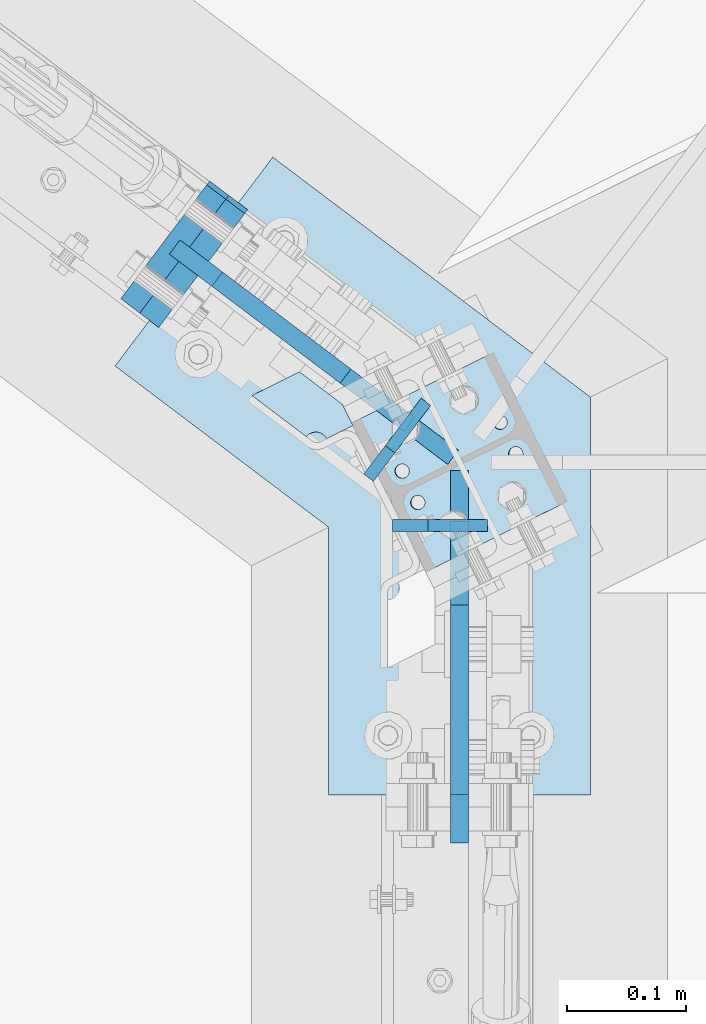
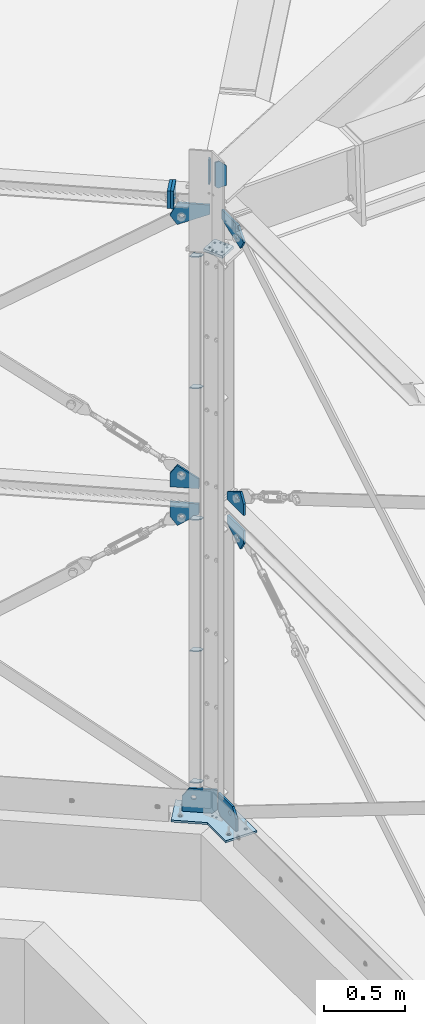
# One storey, part 48 of 476: 19 plates, 43 openings.
"""IFC2X3 building model written with IfcOpenShell, lengths in millimetres."""

from ifc_helpers import new_model, entity, si_unit, converted_unit, point, frame, frame_2d, origin, origin_with_axes, origin_2d_with_axis, place, context, project, spatial, polyline, circle_curve, line_curve, trimmed, segment, composite_curve, circle, outline, extrude, material, layer, layer_set, element, save


model = new_model("IFC2X3")

# Units and contexts
model_context = context("Model", 3, precision=1e-09, world=origin_with_axes())
ifc_project = project(units=[si_unit("LENGTHUNIT", "METRE", prefix="MILLI"), si_unit("AREAUNIT", "SQUARE_METRE"), si_unit("VOLUMEUNIT", "CUBIC_METRE"), converted_unit("PLANEANGLEUNIT", "DEGREE", entity("IfcPlaneAngleMeasure", 0.01745329), si_unit("PLANEANGLEUNIT", "RADIAN"), dimensions=[0, 0, 0, 0, 0, 0, 0])], contexts=[model_context])

# Site, building, storey
site_placement = place(None, origin_with_axes())
site = spatial("IfcSite", under=ifc_project, at=site_placement, Name="mKR Teilneubau & Sanierung BA1 - Ostfildern", CompositionType="ELEMENT")
building_placement = place(site_placement, origin_with_axes())
building = spatial("IfcBuilding", under=site, at=building_placement, Name="Struktur 1", CompositionType="ELEMENT")
storey_placement = place(building_placement, origin_with_axes())
storey = spatial("IfcBuildingStorey", under=building, at=storey_placement, Name="Default Storey", CompositionType="ELEMENT", Elevation=0.0)

# Plate, opening
ifc_material = material(Name="S235JR")
ifc_layer_1 = layer(ifc_material, 15.0)
ifc_layer_set_1 = layer_set([ifc_layer_1], Name="S235JR")
plate_1_placement = place(None, frame((8158.108780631, -6048.676355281, 2969.000017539), z_axis=(-1.0, 0.0, 0.0), x_axis=(0.0, -1.0, 0.0)))
plate_1 = element("IfcPlate", 1, at=plate_1_placement, inside=storey, material=ifc_layer_set_1, Name="-", ObjectType="-", context=model_context, shape_type="SweptSolid", body=[
    extrude(outline(polyline([(20.0, 0.0), (220.0, 0.0), (220.0, 84.822897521), (179.439368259, 153.778210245), (20.0, 59.993391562), (20.0, 0.0)])), origin_with_axes(), (0.0, 0.0, -1.0), 15.0),
])
opening_1_placement = place(plate_1_placement, frame((164.004199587, 88.880080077, -15.5), z_axis=(0.0, 0.0, -1.0), x_axis=(-1.0, 0.0, 0.0)))
element("IfcOpeningElement", 2, at=opening_1_placement, cuts=plate_1, ObjectType="Opening", context=model_context, shape_type="SweptSolid", body=[
    extrude(circle(Radius=16.001, at=frame_2d((16.001, 0.0), x_axis=(1.0, 0.0))), origin(), (0.0, 0.0, -1.0), 16.0),
])

plate_2_placement = place(None, frame((8173.108780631, -6048.676355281, 2855.000017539), z_axis=(1.0, 0.0, 0.0), x_axis=(0.0, -1.0, 0.0)))
plate_2 = element("IfcPlate", 3, at=plate_2_placement, inside=storey, material=ifc_layer_set_1, Name="-", ObjectType="-", context=model_context, shape_type="SweptSolid", body=[
    extrude(outline(polyline([(20.0, 0.0), (220.0, 0.0), (220.0, 94.372336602), (177.838923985, 162.360892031), (20.0, 64.481788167), (20.0, 0.0)])), origin_with_axes(), (0.0, 0.0, -1.0), 15.0),
])
opening_2_placement = place(plate_2_placement, frame((163.929045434, 96.745807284, 0.5), z_axis=(0.0, 0.0, 1.0), x_axis=(1.0, 0.0, 0.0)))
element("IfcOpeningElement", 4, at=opening_2_placement, cuts=plate_2, ObjectType="Opening", context=model_context, shape_type="SweptSolid", body=[
    extrude(circle(Radius=16.001, at=frame_2d((-16.001, 0.0), x_axis=(1.0, 0.0))), origin(), (0.0, 0.0, -1.0), 16.0),
])

plate_3_placement = place(None, frame((8173.108780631, -6048.676355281, 5100.220330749), z_axis=(1.0, 0.0, 0.0), x_axis=(0.0, -1.0, 0.0)))
plate_3 = element("IfcPlate", 5, at=plate_3_placement, inside=storey, material=ifc_layer_set_1, Name="-", ObjectType="-", context=model_context, shape_type="SweptSolid", body=[
    extrude(outline(polyline([(-50.010329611, 0.0), (149.989670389, 0.0), (220.0, 84.822897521), (179.439368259, 153.778210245), (-50.010329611, 70.0), (-50.010329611, 0.0)])), origin_with_axes(), (0.0, 0.0, -1.0), 15.0),
])
opening_3_placement = place(plate_3_placement, frame((164.004506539, 88.879487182, 0.5), z_axis=(0.0, 0.0, 1.0), x_axis=(1.0, 0.0, 0.0)))
element("IfcOpeningElement", 6, at=opening_3_placement, cuts=plate_3, ObjectType="Opening", context=model_context, shape_type="SweptSolid", body=[
    extrude(circle(Radius=16.001, at=frame_2d((-16.001, 0.0), x_axis=(1.0, 0.0))), origin(), (0.0, 0.0, -1.0), 16.0),
])

# Plate, openings
plate_4_placement = place(None, frame((8173.108764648, -5953.675355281, 543.087909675), z_axis=(-1.0, 0.0, 0.0), x_axis=(0.0, -1.0, 0.0)))
plate_4 = element("IfcPlate", 7, at=plate_4_placement, inside=storey, material=ifc_layer_set_1, Name="-", ObjectType="-", context=model_context, shape_type="SweptSolid", body=[
    extrude(outline(polyline([(1.80657514, 1.912090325), (220.0, 1.912090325), (220.0, 94.372336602), (177.838923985, 162.360892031), (1.80657514, 162.360892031), (1.80657514, 1.912090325)])), origin_with_axes(), (0.0, 0.0, 1.0), 15.0),
])
opening_4_placement = place(plate_4_placement, frame((0.0, 0.0, -0.01), z_axis=(0.0, 0.0, 1.0), x_axis=(1.0, 0.0, 0.0)))
element("IfcOpeningElement", 8, at=opening_4_placement, cuts=plate_4, ObjectType="Opening", context=model_context, shape_type="SweptSolid", body=[
    extrude(outline(polyline([(1.80657514, 1.912090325), (31.80657514, 1.912090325), (1.80657514, 31.912090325), (1.80657514, 1.912090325)])), origin(), (0.0, 0.0, 1.0), 15.02),
])
opening_5_placement = place(plate_4_placement, frame((147.928045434, 96.745807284, -0.5), z_axis=(0.0, 0.0, 1.0), x_axis=(-1.0, 0.0, 0.0)))
element("IfcOpeningElement", 9, at=opening_5_placement, cuts=plate_4, ObjectType="Opening", context=model_context, shape_type="SweptSolid", body=[
    extrude(circle(Radius=16.001, at=origin_2d_with_axis()), origin(), (0.0, 0.0, 1.0), 16.0),
])

# Plate, opening
plate_5_placement = place(None, frame((8081.292721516, -5894.385188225, 3027.763476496), z_axis=(-0.602734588, -0.797941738, 0.0), x_axis=(-0.661365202, 0.499569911, 0.559487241)))
plate_5 = element("IfcPlate", 10, at=plate_5_placement, inside=storey, material=ifc_layer_set_1, Name="-", ObjectType="-", context=model_context, shape_type="SweptSolid", body=[
    extrude(outline(polyline([(24.130136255, 0.0), (187.299380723, 0.0), (187.299374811, 79.999999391), (132.890377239, 160.602907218), (-16.300647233, 59.895242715), (24.130136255, 0.0)])), origin_with_axes(), (0.0, 0.0, -1.0), 15.0),
])
opening_6_placement = place(plate_5_placement, frame((127.299378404, 40.343981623, -15.5), z_axis=(0.0, 0.0, 1.0), x_axis=(-0.828838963, -0.559487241, 0.0)))
element("IfcOpeningElement", 11, at=opening_6_placement, cuts=plate_5, ObjectType="Opening", context=model_context, shape_type="SweptSolid", body=[
    extrude(circle(Radius=16.001, at=origin_2d_with_axis()), origin(), (0.0, 0.0, 1.0), 16.0),
])

plate_6_placement = place(None, frame((8090.33373897, -5882.416061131, 2791.74088323), z_axis=(0.602734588, 0.797941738, 0.0), x_axis=(-0.650125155, 0.49107961, -0.579808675)))
plate_6 = element("IfcPlate", 12, at=plate_6_placement, inside=storey, material=ifc_layer_set_1, Name="-", ObjectType="-", context=model_context, shape_type="SweptSolid", body=[
    extrude(outline(polyline([(24.547323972, 0.0), (188.542254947, 0.0), (188.542253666, 80.0), (126.27234637, 167.502267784), (-20.383144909, 63.136744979), (24.547323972, 0.0)])), origin_with_axes(), (0.0, 0.0, -1.0), 15.0),
])
opening_7_placement = place(plate_6_placement, frame((128.542254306, 39.999016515, 0.5), z_axis=(0.0, 0.0, -1.0), x_axis=(-0.814752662, -0.579808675, 0.0)))
element("IfcOpeningElement", 13, at=opening_7_placement, cuts=plate_6, ObjectType="Opening", context=model_context, shape_type="SweptSolid", body=[
    extrude(circle(Radius=16.001, at=origin_2d_with_axis()), origin(), (0.0, 0.0, 1.0), 16.0),
])

# Plate, openings
plate_7_placement = place(None, frame((8158.893743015, -5953.001222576, 545.0), z_axis=(-0.602734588, -0.797941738, 0.0), x_axis=(0.0, 0.0, 1.0)))
plate_7 = element("IfcPlate", 14, at=plate_7_placement, inside=storey, material=ifc_layer_set_1, Name="-", ObjectType="-", context=model_context, shape_type="SweptSolid", body=[
    extrude(outline(polyline([(2.5e-07, 4.053272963), (176.204062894, 4.053272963), (176.204056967, 175.865324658), (111.023841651, 222.250015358), (1.3734e-05, 222.250012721), (2.5e-07, 4.053272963)])), origin_with_axes(), (0.0, 0.0, -1.0), 15.0),
])
opening_8_placement = place(plate_7_placement, frame((2.5e-07, 4.053272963, 0.01), z_axis=(0.0, 0.0, 1.0), x_axis=(1.0, 0.0, 0.0)))
element("IfcOpeningElement", 15, at=opening_8_placement, cuts=plate_7, ObjectType="Opening", context=model_context, shape_type="SweptSolid", body=[
    extrude(outline(polyline([(0.0, 0.0), (30.0, 0.0), (1.854e-06, 30.0), (0.0, 0.0)])), origin(), (0.0, 0.0, -1.0), 15.02),
])
opening_9_placement = place(plate_7_placement, frame((108.826247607, 150.171927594, -15.5), z_axis=(0.0, 0.0, 1.0), x_axis=(0.0, -1.0, 0.0)))
element("IfcOpeningElement", 16, at=opening_9_placement, cuts=plate_7, ObjectType="Opening", context=model_context, shape_type="SweptSolid", body=[
    extrude(circle(Radius=16.001, at=origin_2d_with_axis()), origin(), (0.0, 0.0, 1.0), 16.0),
])

# Plate, opening
plate_8_placement = place(None, frame((8155.764957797, -5931.840294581, 5100.221211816), z_axis=(0.602734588, 0.797941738, 0.0), x_axis=(0.0, 0.0, -1.0)))
plate_8 = element("IfcPlate", 17, at=plate_8_placement, inside=storey, material=ifc_layer_set_1, Name="-", ObjectType="-", context=model_context, shape_type="SweptSolid", body=[
    extrude(outline(polyline([(-2.743e-06, 34.611721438), (70.000878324, 34.61172171), (163.555071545, 237.241031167), (97.247948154, 281.999999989), (-1.8594e-05, 234.611718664), (-2.743e-06, 34.611721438)])), origin_with_axes(), (0.0, 0.0, -1.0), 15.0),
])
opening_10_placement = place(plate_8_placement, frame((96.832279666, 209.890175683, 0.5), z_axis=(0.0, 0.0, -1.0), x_axis=(0.0, -1.0, 0.0)))
element("IfcOpeningElement", 18, at=opening_10_placement, cuts=plate_8, ObjectType="Opening", context=model_context, shape_type="SweptSolid", body=[
    extrude(circle(Radius=16.001, at=origin_2d_with_axis()), origin(), (0.0, 0.0, 1.0), 16.0),
])

ifc_layer_2 = layer(ifc_material, 8.0)
ifc_layer_set_2 = layer_set([ifc_layer_2], Name="S235JR")
plate_9_placement = place(None, frame((7991.012792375, -5892.611556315, 805.123108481), z_axis=(-1.18e-07, 0.0, -1.0), x_axis=(0.895163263, 0.445738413, -1.32e-07)))
plate_9 = element("IfcPlate", 19, at=plate_9_placement, inside=storey, material=ifc_layer_set_2, Name="-", ObjectType="-", context=model_context, shape_type="SweptSolid", body=[
    extrude(outline(polyline([(0.0, 0.0), (44.681799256, 0.0), (64.80213993, 40.419774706), (64.80213993, 60.511176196), (30.121530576, 60.511176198), (0.0, 0.0)])), origin_with_axes(), (0.0, 0.0, 1.0), 8.0),
])
opening_11_placement = place(plate_9_placement, frame((0.0, 0.0, -0.01), z_axis=(0.0, 0.0, 1.0), x_axis=(1.0, 0.0, 0.0)))
element("IfcOpeningElement", 20, at=opening_11_placement, cuts=plate_9, ObjectType="Opening", context=model_context, shape_type="SweptSolid", body=[
    extrude(outline(composite_curve([segment(trimmed(line_curve((30.121530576, 60.511176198), (-0.445626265, -0.895219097), 10.0), [point((30.121530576, 60.511176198))], [point((25.66526793, 51.558985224))], True, "CARTESIAN"), True, "CONTINUOUS"), segment(trimmed(circle_curve(frame_2d((30.121530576, 60.511176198), x_axis=(1.0, 0.0)), 10.0), [point((25.66526793, 51.558985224))], [point((40.121530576, 60.511176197))], True, "CARTESIAN"), True, "CONTINUOUS"), segment(trimmed(line_curve((40.121530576, 60.511176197), (-1.0, 0.0), 10.0), [point((40.121530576, 60.511176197))], [point((30.121530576, 60.511176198))], True, "CARTESIAN"), True, "CONTINUOUS")], self_intersect=False)), origin(), (0.0, 0.0, 1.0), 8.02),
])

plate_10_placement = place(None, frame((7991.013257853, -5892.611324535, 4745.123108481), z_axis=(-1.18e-07, 0.0, -1.0), x_axis=(0.895163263, 0.445738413, -1.32e-07)))
plate_10 = element("IfcPlate", 21, at=plate_10_placement, inside=storey, material=ifc_layer_set_2, Name="-", ObjectType="-", context=model_context, shape_type="SweptSolid", body=[
    extrude(outline(polyline([(0.0, 0.0), (44.681799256, 0.0), (64.80213993, 40.419774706), (64.80213993, 60.511176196), (30.121530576, 60.511176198), (0.0, 0.0)])), origin_with_axes(), (0.0, 0.0, 1.0), 8.0),
])
opening_12_placement = place(plate_10_placement, frame((0.0, 0.0, -0.01), z_axis=(0.0, 0.0, 1.0), x_axis=(1.0, 0.0, 0.0)))
element("IfcOpeningElement", 22, at=opening_12_placement, cuts=plate_10, ObjectType="Opening", context=model_context, shape_type="SweptSolid", body=[
    extrude(outline(composite_curve([segment(trimmed(line_curve((30.121530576, 60.511176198), (-0.445626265, -0.895219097), 10.0), [point((30.121530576, 60.511176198))], [point((25.66526793, 51.558985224))], True, "CARTESIAN"), True, "CONTINUOUS"), segment(trimmed(circle_curve(frame_2d((30.121530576, 60.511176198), x_axis=(1.0, 0.0)), 10.0), [point((25.66526793, 51.558985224))], [point((40.121530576, 60.511176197))], True, "CARTESIAN"), True, "CONTINUOUS"), segment(trimmed(line_curve((40.121530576, 60.511176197), (-1.0, 0.0), 10.0), [point((40.121530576, 60.511176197))], [point((30.121530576, 60.511176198))], True, "CARTESIAN"), True, "CONTINUOUS")], self_intersect=False)), origin(), (0.0, 0.0, 1.0), 8.02),
])

plate_11_placement = place(None, frame((7991.013141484, -5892.61138248, 3760.123108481), z_axis=(-1.18e-07, 0.0, -1.0), x_axis=(0.895163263, 0.445738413, -1.32e-07)))
plate_11 = element("IfcPlate", 23, at=plate_11_placement, inside=storey, material=ifc_layer_set_2, Name="-", ObjectType="-", context=model_context, shape_type="SweptSolid", body=[
    extrude(outline(polyline([(0.0, 0.0), (44.681799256, 0.0), (64.80213993, 40.419774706), (64.80213993, 60.511176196), (30.121530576, 60.511176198), (0.0, 0.0)])), origin_with_axes(), (0.0, 0.0, 1.0), 8.0),
])
opening_13_placement = place(plate_11_placement, frame((0.0, 0.0, -0.01), z_axis=(0.0, 0.0, 1.0), x_axis=(1.0, 0.0, 0.0)))
element("IfcOpeningElement", 24, at=opening_13_placement, cuts=plate_11, ObjectType="Opening", context=model_context, shape_type="SweptSolid", body=[
    extrude(outline(composite_curve([segment(trimmed(line_curve((30.121530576, 60.511176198), (-0.445626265, -0.895219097), 10.0), [point((30.121530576, 60.511176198))], [point((25.66526793, 51.558985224))], True, "CARTESIAN"), True, "CONTINUOUS"), segment(trimmed(circle_curve(frame_2d((30.121530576, 60.511176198), x_axis=(1.0, 0.0)), 10.0), [point((25.66526793, 51.558985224))], [point((40.121530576, 60.511176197))], True, "CARTESIAN"), True, "CONTINUOUS"), segment(trimmed(line_curve((40.121530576, 60.511176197), (-1.0, 0.0), 10.0), [point((40.121530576, 60.511176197))], [point((30.121530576, 60.511176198))], True, "CARTESIAN"), True, "CONTINUOUS")], self_intersect=False)), origin(), (0.0, 0.0, 1.0), 8.02),
])

plate_12_placement = place(None, frame((7991.012908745, -5892.61149837, 1790.123108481), z_axis=(-1.18e-07, 0.0, -1.0), x_axis=(0.895163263, 0.445738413, -1.32e-07)))
plate_12 = element("IfcPlate", 25, at=plate_12_placement, inside=storey, material=ifc_layer_set_2, Name="-", ObjectType="-", context=model_context, shape_type="SweptSolid", body=[
    extrude(outline(polyline([(0.0, 0.0), (44.681799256, 0.0), (64.80213993, 40.419774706), (64.80213993, 60.511176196), (30.121530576, 60.511176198), (0.0, 0.0)])), origin_with_axes(), (0.0, 0.0, 1.0), 8.0),
])
opening_14_placement = place(plate_12_placement, frame((0.0, 0.0, -0.01), z_axis=(0.0, 0.0, 1.0), x_axis=(1.0, 0.0, 0.0)))
element("IfcOpeningElement", 26, at=opening_14_placement, cuts=plate_12, ObjectType="Opening", context=model_context, shape_type="SweptSolid", body=[
    extrude(outline(composite_curve([segment(trimmed(line_curve((30.121530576, 60.511176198), (-0.445626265, -0.895219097), 10.0), [point((30.121530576, 60.511176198))], [point((25.66526793, 51.558985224))], True, "CARTESIAN"), True, "CONTINUOUS"), segment(trimmed(circle_curve(frame_2d((30.121530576, 60.511176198), x_axis=(1.0, 0.0)), 10.0), [point((25.66526793, 51.558985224))], [point((40.121530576, 60.511176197))], True, "CARTESIAN"), True, "CONTINUOUS"), segment(trimmed(line_curve((40.121530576, 60.511176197), (-1.0, 0.0), 10.0), [point((40.121530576, 60.511176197))], [point((30.121530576, 60.511176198))], True, "CARTESIAN"), True, "CONTINUOUS")], self_intersect=False)), origin(), (0.0, 0.0, 1.0), 8.02),
])

# Plate, openings
ifc_layer_3 = layer(ifc_material, 10.0)
ifc_layer_set_3 = layer_set([ifc_layer_3], Name="S235JR")
plate_13_placement = place(None, frame((8189.108764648, -5996.780388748, 5472.548796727), z_axis=(0.0, -1.0, 0.0), x_axis=(-1.0, 0.0, 0.0)))
plate_13 = element("IfcPlate", 27, at=plate_13_placement, inside=storey, material=ifc_layer_set_3, Name="-", ObjectType="-", context=model_context, shape_type="SweptSolid", body=[
    extrude(outline(polyline([(0.0, 0.0), (80.0, 0.0), (80.0, 200.0), (0.0, 197.595559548), (0.0, 0.0)])), origin_with_axes(), (0.0, 0.0, 1.0), 10.0),
])
opening_15_placement = place(plate_13_placement, frame((0.0, 0.0, -0.01), z_axis=(0.0, 0.0, 1.0), x_axis=(1.0, 0.0, 0.0)))
element("IfcOpeningElement", 28, at=opening_15_placement, cuts=plate_13, ObjectType="Opening", context=model_context, shape_type="SweptSolid", body=[
    extrude(outline(polyline([(0.0, 0.0), (50.0, 0.0), (0.0, 50.0), (0.0, 0.0)])), origin(), (0.0, 0.0, 1.0), 10.02),
])
opening_16_placement = place(plate_13_placement, frame((0.0, 0.0, -0.01), z_axis=(0.0, 0.0, 1.0), x_axis=(1.0, 0.0, 0.0)))
element("IfcOpeningElement", 29, at=opening_16_placement, cuts=plate_13, ObjectType="Opening", context=model_context, shape_type="SweptSolid", body=[
    extrude(outline(polyline([(80.0, 200.0), (60.009027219, 199.399161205), (80.0, 180.0), (80.0, 200.0)])), origin(), (0.0, 0.0, 1.0), 10.02),
])

plate_14_placement = place(None, frame((8141.379521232, -5900.927161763, 5472.548796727), z_axis=(0.798017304, -0.602634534, 0.0), x_axis=(-0.602634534, -0.798017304, 0.0)))
plate_14 = element("IfcPlate", 30, at=plate_14_placement, inside=storey, material=ifc_layer_set_3, Name="-", ObjectType="-", context=model_context, shape_type="SweptSolid", body=[
    extrude(outline(polyline([(0.0, 0.0), (80.0, 0.0), (80.0, 200.0), (0.0, 197.595559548), (0.0, 0.0)])), origin_with_axes(), (0.0, 0.0, -1.0), 10.0),
])
opening_17_placement = place(plate_14_placement, frame((0.0, 0.0, 0.01), z_axis=(0.0, 0.0, 1.0), x_axis=(1.0, 0.0, 0.0)))
element("IfcOpeningElement", 31, at=opening_17_placement, cuts=plate_14, ObjectType="Opening", context=model_context, shape_type="SweptSolid", body=[
    extrude(outline(polyline([(0.0, 0.0), (50.0, 0.0), (0.0, 50.0), (0.0, 0.0)])), origin(), (0.0, 0.0, -1.0), 10.02),
])
opening_18_placement = place(plate_14_placement, frame((80.0, 200.0, 0.01), z_axis=(0.0, 0.0, 1.0), x_axis=(-0.999548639, -0.03004194, 0.0)))
element("IfcOpeningElement", 32, at=opening_18_placement, cuts=plate_14, ObjectType="Opening", context=model_context, shape_type="SweptSolid", body=[
    extrude(outline(polyline([(0.0, 0.0), (20.0, 0.0), (0.600838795, 19.990972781), (0.0, 0.0)])), origin(), (0.0, 0.0, -1.0), 10.02),
])

ifc_layer_4 = layer(ifc_material, 20.0)
ifc_layer_set_4 = layer_set([ifc_layer_4], Name="S235JR")
plate_15_placement = place(None, frame((7934.205668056, -5773.880892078, 5157.22121182), z_axis=(0.797941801, -0.602734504, 0.0), x_axis=(-0.018107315, -0.023971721, 0.999548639)))
plate_15 = element("IfcPlate", 33, at=plate_15_placement, inside=storey, material=ifc_layer_set_4, Name="Endplate#1", ObjectType="Endplate#1", context=model_context, shape_type="SweptSolid", body=[
    extrude(outline(polyline([(-67.5, -60.0), (67.5, -60.0), (67.5, 60.0), (-67.5, 60.0), (-67.5, -60.0)])), origin_with_axes(), (0.0, 0.0, -1.0), 20.0),
])
opening_19_placement = place(plate_15_placement, frame((22.5, 44.001, 0.5), z_axis=(0.0, 0.0, 1.0), x_axis=(1.0, 0.0, 0.0)))
element("IfcOpeningElement", 34, at=opening_19_placement, cuts=plate_15, ObjectType="Opening", context=model_context, shape_type="SweptSolid", body=[
    extrude(circle(Radius=9.001, at=frame_2d((0.0, -9.001), x_axis=(1.0, 0.0))), origin(), (0.0, 0.0, -1.0), 21.0),
])
opening_20_placement = place(plate_15_placement, frame((-22.5, 44.001, 0.5), z_axis=(0.0, 0.0, 1.0), x_axis=(1.0, 0.0, 0.0)))
element("IfcOpeningElement", 35, at=opening_20_placement, cuts=plate_15, ObjectType="Opening", context=model_context, shape_type="SweptSolid", body=[
    extrude(circle(Radius=9.001, at=frame_2d((0.0, -9.001), x_axis=(1.0, 0.0))), origin(), (0.0, 0.0, -1.0), 21.0),
])
opening_21_placement = place(plate_15_placement, frame((22.5, -25.999, 0.5), z_axis=(0.0, 0.0, 1.0), x_axis=(1.0, 0.0, 0.0)))
element("IfcOpeningElement", 36, at=opening_21_placement, cuts=plate_15, ObjectType="Opening", context=model_context, shape_type="SweptSolid", body=[
    extrude(circle(Radius=9.001, at=frame_2d((0.0, -9.001), x_axis=(1.0, 0.0))), origin(), (0.0, 0.0, -1.0), 21.0),
])
opening_22_placement = place(plate_15_placement, frame((-22.5, -25.999, 0.5), z_axis=(0.0, 0.0, 1.0), x_axis=(1.0, 0.0, 0.0)))
element("IfcOpeningElement", 37, at=opening_22_placement, cuts=plate_15, ObjectType="Opening", context=model_context, shape_type="SweptSolid", body=[
    extrude(circle(Radius=9.001, at=frame_2d((0.0, -9.001), x_axis=(1.0, 0.0))), origin(), (0.0, 0.0, -1.0), 21.0),
])

plate_16_placement = place(None, frame((7950.164504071, -5785.935582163, 5157.22121182), z_axis=(0.797941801, -0.602734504, 0.0), x_axis=(-0.018107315, -0.023971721, 0.999548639)))
plate_16 = element("IfcPlate", 38, at=plate_16_placement, inside=storey, material=ifc_layer_set_4, Name="Endplate#2", ObjectType="Endplate#2", context=model_context, shape_type="SweptSolid", body=[
    extrude(outline(polyline([(-67.5, -60.0), (67.5, -60.0), (67.5, 60.0), (-67.5, 60.0), (-67.5, -60.0)])), origin_with_axes(), (0.0, 0.0, -1.0), 20.0),
])
opening_23_placement = place(plate_16_placement, frame((22.5, 44.001, 0.5), z_axis=(0.0, 0.0, 1.0), x_axis=(1.0, 0.0, 0.0)))
element("IfcOpeningElement", 39, at=opening_23_placement, cuts=plate_16, ObjectType="Opening", context=model_context, shape_type="SweptSolid", body=[
    extrude(circle(Radius=9.001, at=frame_2d((0.0, -9.001), x_axis=(1.0, 0.0))), origin(), (0.0, 0.0, -1.0), 21.0),
])
opening_24_placement = place(plate_16_placement, frame((-22.5, 44.001, 0.5), z_axis=(0.0, 0.0, 1.0), x_axis=(1.0, 0.0, 0.0)))
element("IfcOpeningElement", 40, at=opening_24_placement, cuts=plate_16, ObjectType="Opening", context=model_context, shape_type="SweptSolid", body=[
    extrude(circle(Radius=9.001, at=frame_2d((0.0, -9.001), x_axis=(1.0, 0.0))), origin(), (0.0, 0.0, -1.0), 21.0),
])
opening_25_placement = place(plate_16_placement, frame((22.5, -25.999, 0.5), z_axis=(0.0, 0.0, 1.0), x_axis=(1.0, 0.0, 0.0)))
element("IfcOpeningElement", 41, at=opening_25_placement, cuts=plate_16, ObjectType="Opening", context=model_context, shape_type="SweptSolid", body=[
    extrude(circle(Radius=9.001, at=frame_2d((0.0, -9.001), x_axis=(1.0, 0.0))), origin(), (0.0, 0.0, -1.0), 21.0),
])
opening_26_placement = place(plate_16_placement, frame((-22.5, -25.999, 0.5), z_axis=(0.0, 0.0, 1.0), x_axis=(1.0, 0.0, 0.0)))
element("IfcOpeningElement", 42, at=opening_26_placement, cuts=plate_16, ObjectType="Opening", context=model_context, shape_type="SweptSolid", body=[
    extrude(circle(Radius=9.001, at=frame_2d((0.0, -9.001), x_axis=(1.0, 0.0))), origin(), (0.0, 0.0, -1.0), 21.0),
])

# Plate, opening
plate_17_placement = place(None, frame((7991.013025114, -5892.611440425, 2775.123108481), z_axis=(-1.18e-07, 0.0, -1.0), x_axis=(0.895163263, 0.445738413, -1.32e-07)))
plate_17 = element("IfcPlate", 43, at=plate_17_placement, inside=storey, material=ifc_layer_set_2, Name="-", ObjectType="-", context=model_context, shape_type="SweptSolid", body=[
    extrude(outline(polyline([(0.0, 0.0), (44.681799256, 0.0), (64.80213993, 40.419774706), (64.80213993, 60.511176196), (30.121530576, 60.511176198), (0.0, 0.0)])), origin_with_axes(), (0.0, 0.0, 1.0), 8.0),
])
opening_27_placement = place(plate_17_placement, frame((0.0, 0.0, -0.01), z_axis=(0.0, 0.0, 1.0), x_axis=(1.0, 0.0, 0.0)))
element("IfcOpeningElement", 44, at=opening_27_placement, cuts=plate_17, ObjectType="Opening", context=model_context, shape_type="SweptSolid", body=[
    extrude(outline(composite_curve([segment(trimmed(line_curve((30.121530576, 60.511176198), (-0.445626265, -0.895219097), 10.0), [point((30.121530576, 60.511176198))], [point((25.66526793, 51.558985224))], True, "CARTESIAN"), True, "CONTINUOUS"), segment(trimmed(circle_curve(frame_2d((30.121530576, 60.511176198), x_axis=(1.0, 0.0)), 10.0), [point((25.66526793, 51.558985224))], [point((40.121530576, 60.511176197))], True, "CARTESIAN"), True, "CONTINUOUS"), segment(trimmed(line_curve((40.121530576, 60.511176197), (-1.0, 0.0), 10.0), [point((40.121530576, 60.511176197))], [point((30.121530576, 60.511176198))], True, "CARTESIAN"), True, "CONTINUOUS")], self_intersect=False)), origin(), (0.0, 0.0, 1.0), 8.02),
])

# Plate, openings
plate_18_placement = place(None, frame((8275.608764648, -5893.907360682, 545.001008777), z_axis=(0.0, 0.0, -1.0), x_axis=(0.0, -1.0, 0.0)))
plate_18 = element("IfcPlate", 45, at=plate_18_placement, inside=storey, material=ifc_layer_set_1, Name="-", ObjectType="-", context=model_context, shape_type="SweptSolid", body=[
    extrude(outline(polyline([(0.0, 0.0), (334.530437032, 0.0), (334.530437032, 220.001301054), (109.530437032, 220.001301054), (-26.084826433, 399.538206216), (-201.632533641, 266.93729184), (0.0, 0.0)])), origin_with_axes(), (0.0, 0.0, 1.0), 15.0),
])
opening_28_placement = place(plate_18_placement, frame((-131.598207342, 257.176250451, 15.5), z_axis=(0.0, 0.0, -1.0), x_axis=(1.0, 0.0, 0.0)))
element("IfcOpeningElement", 46, at=opening_28_placement, cuts=plate_18, ObjectType="Opening", context=model_context, shape_type="SweptSolid", body=[
    extrude(circle(Radius=11.001, at=origin_2d_with_axis()), origin(), (0.0, 0.0, 1.0), 16.0),
])
opening_29_placement = place(plate_18_placement, frame((-35.8452052, 329.504390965, 15.5), z_axis=(0.0, 0.0, -1.0), x_axis=(1.0, 0.0, 0.0)))
element("IfcOpeningElement", 47, at=opening_29_placement, cuts=plate_18, ObjectType="Opening", context=model_context, shape_type="SweptSolid", body=[
    extrude(circle(Radius=11.001, at=origin_2d_with_axis()), origin(), (0.0, 0.0, 1.0), 16.0),
])
opening_30_placement = place(plate_18_placement, frame((284.530423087, 170.0, 15.5), z_axis=(0.0, 0.0, -1.0), x_axis=(1.0, 0.0, 0.0)))
element("IfcOpeningElement", 48, at=opening_30_placement, cuts=plate_18, ObjectType="Opening", context=model_context, shape_type="SweptSolid", body=[
    extrude(circle(Radius=11.001, at=origin_2d_with_axis()), origin(), (0.0, 0.0, 1.0), 16.0),
])
opening_31_placement = place(plate_18_placement, frame((284.530423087, 50.0, 15.5), z_axis=(0.0, 0.0, -1.0), x_axis=(1.0, 0.0, 0.0)))
element("IfcOpeningElement", 49, at=opening_31_placement, cuts=plate_18, ObjectType="Opening", context=model_context, shape_type="SweptSolid", body=[
    extrude(circle(Radius=11.001, at=origin_2d_with_axis()), origin(), (0.0, 0.0, 1.0), 16.0),
])
opening_32_placement = place(plate_18_placement, frame((21.060318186, 75.397163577, 15.5), z_axis=(0.0, 0.0, -1.0), x_axis=(-0.445738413, -0.895163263, 0.0)))
element("IfcOpeningElement", 50, at=opening_32_placement, cuts=plate_18, ObjectType="Opening", context=model_context, shape_type="SweptSolid", body=[
    extrude(circle(Radius=6.001, at=origin_2d_with_axis()), origin(), (0.0, 0.0, 1.0), 16.0),
])
opening_33_placement = place(plate_18_placement, frame((62.068252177, 157.752183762, 15.5), z_axis=(0.0, 0.0, -1.0), x_axis=(-0.445738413, -0.895163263, 0.0)))
element("IfcOpeningElement", 51, at=opening_33_placement, cuts=plate_18, ObjectType="Opening", context=model_context, shape_type="SweptSolid", body=[
    extrude(circle(Radius=6.001, at=origin_2d_with_axis()), origin(), (0.0, 0.0, 1.0), 16.0),
])
opening_34_placement = place(plate_18_placement, frame((88.475568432, 144.602900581, 15.5), z_axis=(0.0, 0.0, -1.0), x_axis=(-0.445738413, -0.895163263, 0.0)))
element("IfcOpeningElement", 52, at=opening_34_placement, cuts=plate_18, ObjectType="Opening", context=model_context, shape_type="SweptSolid", body=[
    extrude(circle(Radius=6.001, at=origin_2d_with_axis()), origin(), (0.0, 0.0, 1.0), 16.0),
])
opening_35_placement = place(plate_18_placement, frame((47.467634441, 62.247880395, 15.5), z_axis=(0.0, 0.0, -1.0), x_axis=(-0.445738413, -0.895163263, 0.0)))
element("IfcOpeningElement", 53, at=opening_35_placement, cuts=plate_18, ObjectType="Opening", context=model_context, shape_type="SweptSolid", body=[
    extrude(circle(Radius=6.001, at=origin_2d_with_axis()), origin(), (0.0, 0.0, 1.0), 16.0),
])

plate_19_placement = place(None, frame((8079.350180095, -5913.420915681, 4762.38059599), z_axis=(-0.024076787, -0.011986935, 0.999638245), x_axis=(0.445738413, -0.895163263, 1.685e-06)))
plate_19 = element("IfcPlate", 54, at=plate_19_placement, inside=storey, material=ifc_layer_set_4, Name="Endplate", ObjectType="Endplate", context=model_context, shape_type="SweptSolid", body=[
    extrude(outline(polyline([(0.0, 0.0), (140.0, 0.0), (140.0, 123.048131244), (0.0, 123.048131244), (0.0, 0.0)])), origin_with_axes(), (0.0, 0.0, 1.0), 20.0),
])
opening_36_placement = place(plate_19_placement, frame((17.999, 34.03, -0.5), z_axis=(0.0, 0.0, -1.0), x_axis=(-1.0, 0.0, 0.0)))
element("IfcOpeningElement", 55, at=opening_36_placement, cuts=plate_19, ObjectType="Opening", context=model_context, shape_type="SweptSolid", body=[
    extrude(circle(Radius=7.001, at=frame_2d((-7.001, 0.0), x_axis=(1.0, 0.0))), origin(), (0.0, 0.0, -1.0), 21.0),
])
opening_37_placement = place(plate_19_placement, frame((107.999, 89.03, -0.5), z_axis=(0.0, 0.0, -1.0), x_axis=(-1.0, 0.0, 0.0)))
element("IfcOpeningElement", 56, at=opening_37_placement, cuts=plate_19, ObjectType="Opening", context=model_context, shape_type="SweptSolid", body=[
    extrude(circle(Radius=7.001, at=frame_2d((-7.001, 0.0), x_axis=(1.0, 0.0))), origin(), (0.0, 0.0, -1.0), 21.0),
])
opening_38_placement = place(plate_19_placement, frame((17.999, 89.03, -0.5), z_axis=(0.0, 0.0, -1.0), x_axis=(-1.0, 0.0, 0.0)))
element("IfcOpeningElement", 57, at=opening_38_placement, cuts=plate_19, ObjectType="Opening", context=model_context, shape_type="SweptSolid", body=[
    extrude(circle(Radius=7.001, at=frame_2d((-7.001, 0.0), x_axis=(1.0, 0.0))), origin(), (0.0, 0.0, -1.0), 21.0),
])
opening_39_placement = place(plate_19_placement, frame((107.999, 34.03, -0.5), z_axis=(0.0, 0.0, -1.0), x_axis=(-1.0, 0.0, 0.0)))
element("IfcOpeningElement", 58, at=opening_39_placement, cuts=plate_19, ObjectType="Opening", context=model_context, shape_type="SweptSolid", body=[
    extrude(circle(Radius=7.001, at=frame_2d((-7.001, 0.0), x_axis=(1.0, 0.0))), origin(), (0.0, 0.0, -1.0), 21.0),
])
opening_40_placement = place(plate_19_placement, frame((55.257188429, 107.545055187, 20.5), z_axis=(0.0, 0.0, -1.0), x_axis=(0.0, -1.0, 0.0)))
element("IfcOpeningElement", 59, at=opening_40_placement, cuts=plate_19, ObjectType="Opening", context=model_context, shape_type="SweptSolid", body=[
    extrude(circle(Radius=6.001, at=origin_2d_with_axis()), origin(), (0.0, 0.0, 1.0), 21.0),
])
opening_41_placement = place(plate_19_placement, frame((55.257184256, 15.503076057, 20.5), z_axis=(0.0, 0.0, -1.0), x_axis=(0.0, -1.0, 0.0)))
element("IfcOpeningElement", 60, at=opening_41_placement, cuts=plate_19, ObjectType="Opening", context=model_context, shape_type="SweptSolid", body=[
    extrude(circle(Radius=6.001, at=origin_2d_with_axis()), origin(), (0.0, 0.0, 1.0), 21.0),
])
opening_42_placement = place(plate_19_placement, frame((84.757184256, 15.503076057, 20.5), z_axis=(0.0, 0.0, -1.0), x_axis=(0.0, -1.0, 0.0)))
element("IfcOpeningElement", 61, at=opening_42_placement, cuts=plate_19, ObjectType="Opening", context=model_context, shape_type="SweptSolid", body=[
    extrude(circle(Radius=6.001, at=origin_2d_with_axis()), origin(), (0.0, 0.0, 1.0), 21.0),
])
opening_43_placement = place(plate_19_placement, frame((84.757188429, 107.545055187, 20.5), z_axis=(0.0, 0.0, -1.0), x_axis=(0.0, -1.0, 0.0)))
element("IfcOpeningElement", 62, at=opening_43_placement, cuts=plate_19, ObjectType="Opening", context=model_context, shape_type="SweptSolid", body=[
    extrude(circle(Radius=6.001, at=origin_2d_with_axis()), origin(), (0.0, 0.0, 1.0), 21.0),
])

save(model, "model.ifc")
